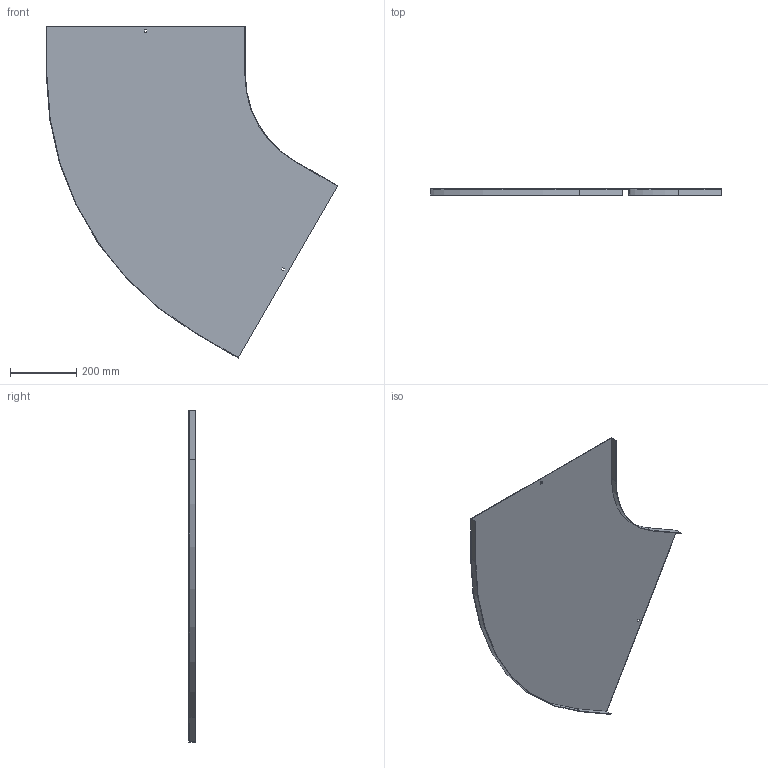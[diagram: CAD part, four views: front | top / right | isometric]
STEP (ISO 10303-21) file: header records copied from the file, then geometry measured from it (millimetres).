
FILE_DESCRIPTION (( 'STEP AP214' ), '1' );
FILE_NAME ('A2_13N3R600.step', '2025-02-21T10:52:20', ( '' ), ( '' ), 'SwSTEP 2.0', 'SolidWorks 2023', '' );
FILE_SCHEMA (( 'AUTOMOTIVE_DESIGN' ));
Length unit declared in the file: millimetre
Products named in the file (1): A2_13N3R600
Bounding box: 882.15 x 20 x 1005.72 mm (x, y, z)
Volume: 891010.3 mm3; surface area: 1192811.7 mm2
Topology: 1 solids, 1 shells, 26 faces, 72 edges, 48 vertices
Faces by surface type: plane 22, cylinder 4
Entity records: 855 total; most frequent: CARTESIAN_POINT 147, ORIENTED_EDGE 144, DIRECTION 134, EDGE_CURVE 72, LINE 64, VECTOR 64, VERTEX_POINT 48, AXIS2_PLACEMENT_3D 35
